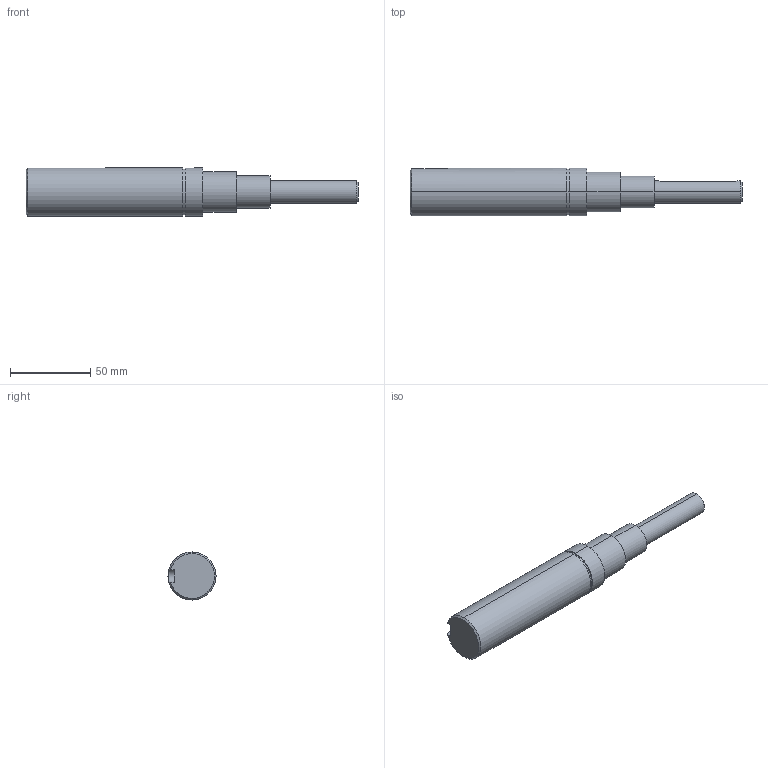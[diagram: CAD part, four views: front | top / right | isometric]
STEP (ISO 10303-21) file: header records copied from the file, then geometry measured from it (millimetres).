
FILE_DESCRIPTION (( 'STEP AP203' ), '1' );
FILE_NAME ('084.814.001-1.STEP', '2013-01-29T13:32:11', ( 'Alusic' ), ( 'Alusic' ), 'SwSTEP 2.0', 'SolidWorks 2011', '' );
FILE_SCHEMA (( 'CONFIG_CONTROL_DESIGN' ));
Length unit declared in the file: millimetre
Products named in the file (1): 084.814.001-1
Bounding box: 207.5 x 30 x 30 mm (x, y, z)
Volume: 101650.1 mm3; surface area: 17897.1 mm2
Topology: 1 solids, 1 shells, 37 faces, 81 edges, 51 vertices
Faces by surface type: cylinder 17, plane 13, cone 7
Entity records: 1176 total; most frequent: CARTESIAN_POINT 267, DIRECTION 187, ORIENTED_EDGE 158, EDGE_CURVE 79, AXIS2_PLACEMENT_3D 75, VERTEX_POINT 51, EDGE_LOOP 44, ADVANCED_FACE 37
